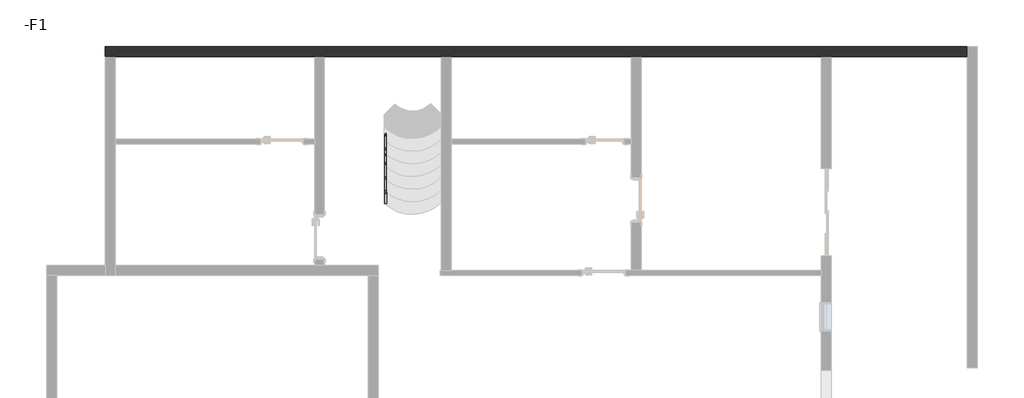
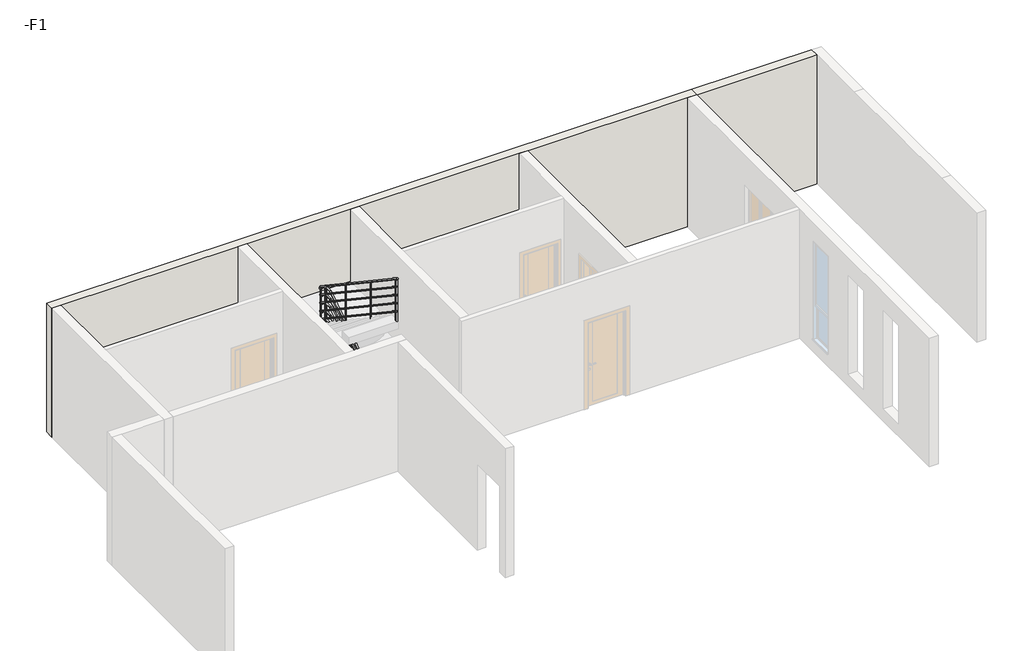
# One storey, part 2 of 3: 1 railing, 1 wall.
"""IFC4 building model written with IfcOpenShell, lengths in millimetres."""

from ifc_helpers import new_model, si_unit, point, frame, frame_2d, origin, place, context, project, spatial, circle_curve, ellipse_curve, trimmed, segment, composite_curve, outline, extrude, faceted_brep, element, save
from ifc_brep_helpers import plane_surface, cylinder_surface, advanced_brep

model = new_model("IFC4")

# Units and contexts
model_context = context("Model", 3, world=origin())
ifc_project = project(units=[si_unit("LENGTHUNIT", "METRE", prefix="MILLI")], contexts=[model_context])

# Site, building, storey
site = spatial("IfcSite", under=ifc_project)
building = spatial("IfcBuilding", under=site)
storey = spatial("IfcBuildingStorey", under=building, Name="-F1", Elevation=-3300.0)

# Railing
placement = place(None, origin())
element("IfcRailing", 1, ObjectType="900mm 圆管", at=placement, inside=storey, context=model_context, shape_type="SolidModel", body=[
    advanced_brep(
    [(-11180.5782681, -2651.0286905, -2250.3677801), (-11220.5782681, -2651.0286905, -2250.3677801), (-11180.5782681, -824.9629832, -1030.5263158), (-11220.5782681, -824.9629832, -1030.5263158), (-11180.5782681, -605.6286905, -1030.5263158), (-11220.5782681, -645.6286905, -1030.5263158), (-11339.1184451, -605.6286905, -1030.5263158), (-11305.857165, -645.6286905, -1030.5263158)],
    [
        (0, 1, ellipse_curve(frame((-11200.5782681, -2651.0286905, -2250.3677801), z_axis=(0.0, -1.0, 0.0), x_axis=(0.0, 0.0, -1.0)), 24.0519907, 20.0)),
        (1, 0, ellipse_curve(frame((-11200.5782681, -2651.0286905, -2250.3677801), z_axis=(0.0, -1.0, 0.0), x_axis=(0.0, 0.0, -1.0)), 24.0519907, 20.0)),
        (0, 2),
        (2, 3, ellipse_curve(frame((-11200.5782681, -824.9629832, -1030.5263158), z_axis=(0.0, -0.9569566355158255, -0.29023093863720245), x_axis=(0.0, 0.29023093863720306, -0.9569566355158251)), 20.8995886, 20.0)),
        (3, 1),
        (3, 2, ellipse_curve(frame((-11200.5782681, -824.9629832, -1030.5263158), z_axis=(0.0, -0.9569566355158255, -0.29023093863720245), x_axis=(0.0, 0.29023093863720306, -0.9569566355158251)), 20.8995886, 20.0)),
        (2, 4),
        (4, 5, ellipse_curve(frame((-11200.5782681, -625.6286905, -1030.5263158), z_axis=(0.7071067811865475, -0.7071067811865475, 0.0), x_axis=(-0.7071067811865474, -0.7071067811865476, 0.0)), 28.2842712, 20.0)),
        (5, 3),
        (5, 4, ellipse_curve(frame((-11200.5782681, -625.6286905, -1030.5263158), z_axis=(0.7071067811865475, -0.7071067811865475, 0.0), x_axis=(-0.7071067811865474, -0.7071067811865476, 0.0)), 28.2842712, 20.0)),
        (6, 7, ellipse_curve(frame((-11322.487805, -625.6286905, -1030.5263158), z_axis=(-0.7071067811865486, -0.5879819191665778, 0.3927814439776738), x_axis=(0.7071067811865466, -0.5879819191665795, 0.3927814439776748)), 28.2842712, 20.0)),
        (7, 6, ellipse_curve(frame((-11322.487805, -625.6286905, -1030.5263158), z_axis=(-0.7071067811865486, -0.5879819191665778, 0.3927814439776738), x_axis=(0.7071067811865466, -0.5879819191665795, 0.3927814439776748)), 28.2842712, 20.0)),
        (4, 6),
        (7, 5),
    ],
    [
        plane_surface(frame((-11200.5782681, -2651.0286905, -2226.3157895), z_axis=(0.0, -1.0, 0.0), x_axis=(0.0, 0.0, 1.0))),
        cylinder_surface(frame((-11200.5782681, -2639.9191536, -2242.9464296), z_axis=(0.0, -0.831532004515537, -0.5554768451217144), x_axis=(-1.0, 0.0, 0.0)), 20.0),
        cylinder_surface(frame((-11200.5782681, -831.0286905, -1030.5263158), z_axis=(0.0, -1.0, 0.0), x_axis=(-1.0, 0.0, 0.0)), 20.0),
        plane_surface(frame((-11311.3782681, -625.6286905, -1010.5263158), z_axis=(-0.7071067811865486, -0.5879819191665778, 0.3927814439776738), x_axis=(0.7071067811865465, -0.5879819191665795, 0.392781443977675))),
        cylinder_surface(frame((-11200.5782681, -625.6286905, -1030.5263158), z_axis=(1.0, 0.0, 0.0), x_axis=(0.0, -1.0, 0.0)), 20.0),
    ],
    [
        (0, [[1, 2]]),
        (1, [[-1, 3, 4, 5]]),
        (1, [[-2, -5, 6, -3]]),
        (2, [[-4, 7, 8, 9]]),
        (2, [[-6, -9, 10, -7]]),
        (3, [[11, 12]]),
        (4, [[-8, 13, -12, 14]]),
        (4, [[-10, -14, -11, -13]]),
    ],
),
    advanced_brep(
    [(-11331.3782681, -620.1075873, -1001.7928086), (-11291.3782681, -653.3688674, -979.5737348), (-11331.3782681, -3691.0286905, 1049.6322199), (-11291.3782681, -3691.0286905, 1049.6322199)],
    [
        (0, 1, ellipse_curve(frame((-11311.3782681, -636.7382274, -990.6832717), z_axis=(0.7071067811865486, 0.5879819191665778, -0.3927814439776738), x_axis=(-0.7071067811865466, 0.5879819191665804, -0.3927814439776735)), 28.2842712, 20.0)),
        (1, 0, ellipse_curve(frame((-11311.3782681, -636.7382274, -990.6832717), z_axis=(0.7071067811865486, 0.5879819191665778, -0.3927814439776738), x_axis=(-0.7071067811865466, 0.5879819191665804, -0.3927814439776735)), 28.2842712, 20.0)),
        (2, 3, ellipse_curve(frame((-11311.3782681, -3691.0286905, 1049.6322199), z_axis=(0.0, -1.0, 0.0), x_axis=(0.0, 0.0, -1.0)), 24.0519907, 20.0)),
        (3, 2, ellipse_curve(frame((-11311.3782681, -3691.0286905, 1049.6322199), z_axis=(0.0, -1.0, 0.0), x_axis=(0.0, 0.0, -1.0)), 24.0519907, 20.0)),
        (0, 2),
        (3, 1),
    ],
    [
        plane_surface(frame((-11311.3782681, -625.6286905, -974.0526316), z_axis=(0.7071067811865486, 0.5879819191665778, -0.3927814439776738), x_axis=(0.7071067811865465, -0.5879819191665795, 0.392781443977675))),
        plane_surface(frame((-11311.3782681, -3691.0286905, 1073.6842105), z_axis=(0.0, -1.0, 0.0), x_axis=(0.0, 0.0, -1.0))),
        cylinder_surface(frame((-11311.3782681, -636.7382274, -990.6832717), z_axis=(0.0, 0.8315320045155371, -0.5554768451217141), x_axis=(1.0, 0.0, 0.0)), 20.0),
    ],
    [
        (0, [[1, 2]]),
        (1, [[3, 4]]),
        (2, [[-1, 5, -4, 6]]),
        (2, [[-2, -6, -3, -5]]),
    ],
),
    advanced_brep(
    [(-11185.5782681, -2651.0286905, -2444.3547825), (-11215.5782681, -2651.0286905, -2444.3547825), (-11185.5782681, -826.47941, -1225.5263158), (-11215.5782681, -826.47941, -1225.5263158), (-11185.5782681, -640.6286905, -1225.5263158), (-11215.5782681, -640.6286905, -1225.5263158)],
    [
        (0, 1, ellipse_curve(frame((-11200.5782681, -2651.0286905, -2444.3547825), z_axis=(0.0, -1.0, 0.0), x_axis=(0.0, 0.0, -1.0)), 18.038993, 15.0)),
        (1, 0, ellipse_curve(frame((-11200.5782681, -2651.0286905, -2444.3547825), z_axis=(0.0, -1.0, 0.0), x_axis=(0.0, 0.0, -1.0)), 18.038993, 15.0)),
        (0, 2),
        (2, 3, ellipse_curve(frame((-11200.5782681, -826.47941, -1225.5263158), z_axis=(0.0, -0.9569566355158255, -0.29023093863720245), x_axis=(0.0, 0.29023093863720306, -0.9569566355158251)), 15.6746915, 15.0)),
        (3, 1),
        (3, 2, ellipse_curve(frame((-11200.5782681, -826.47941, -1225.5263158), z_axis=(0.0, -0.9569566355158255, -0.29023093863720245), x_axis=(0.0, 0.29023093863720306, -0.9569566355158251)), 15.6746915, 15.0)),
        (4, 5, circle_curve(frame((-11200.5782681, -640.6286905, -1225.5263158), z_axis=(0.0, 1.0, 0.0), x_axis=(-1.0, 0.0, 0.0)), 15.0)),
        (5, 4, circle_curve(frame((-11200.5782681, -640.6286905, -1225.5263158), z_axis=(0.0, 1.0, 0.0), x_axis=(-1.0, 0.0, 0.0)), 15.0)),
        (2, 4),
        (5, 3),
    ],
    [
        plane_surface(frame((-11200.5782681, -2651.0286905, -2426.3157895), z_axis=(0.0, -1.0, 0.0), x_axis=(0.0, 0.0, 1.0))),
        cylinder_surface(frame((-11200.5782681, -2642.6965378, -2438.7887695), z_axis=(0.0, -0.831532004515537, -0.5554768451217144), x_axis=(-1.0, 0.0, 0.0)), 15.0),
        plane_surface(frame((-11200.5782681, -640.6286905, -1210.5263158), z_axis=(0.0, 1.0, 0.0), x_axis=(0.0, 0.0, 1.0))),
        cylinder_surface(frame((-11200.5782681, -831.0286905, -1225.5263158), z_axis=(0.0, -1.0, 0.0), x_axis=(-1.0, 0.0, 0.0)), 15.0),
    ],
    [
        (0, [[1, 2]]),
        (1, [[-1, 3, 4, 5]]),
        (1, [[-2, -5, 6, -3]]),
        (2, [[7, 8]]),
        (3, [[-4, 9, -8, 10]]),
        (3, [[-6, -10, -7, -9]]),
    ],
),
    advanced_brep(
    [(-11185.5782681, -610.6286905, -1225.5263158), (-11185.5782681, -640.6286905, -1225.5263158), (-11296.3782681, -610.6286905, -1225.5263158), (-11296.3782681, -640.6286905, -1225.5263158)],
    [
        (0, 1, circle_curve(frame((-11185.5782681, -625.6286905, -1225.5263158), z_axis=(1.0, 0.0, 0.0), x_axis=(0.0, -1.0, 0.0)), 15.0)),
        (1, 0, circle_curve(frame((-11185.5782681, -625.6286905, -1225.5263158), z_axis=(1.0, 0.0, 0.0), x_axis=(0.0, -1.0, 0.0)), 15.0)),
        (2, 3, circle_curve(frame((-11296.3782681, -625.6286905, -1225.5263158), z_axis=(-1.0, 0.0, 0.0), x_axis=(0.0, -1.0, 0.0)), 15.0)),
        (3, 2, circle_curve(frame((-11296.3782681, -625.6286905, -1225.5263158), z_axis=(-1.0, 0.0, 0.0), x_axis=(0.0, -1.0, 0.0)), 15.0)),
        (0, 2),
        (3, 1),
    ],
    [
        plane_surface(frame((-11185.5782681, -625.6286905, -1210.5263158), z_axis=(1.0, 0.0, 0.0), x_axis=(0.0, -1.0, 0.0))),
        plane_surface(frame((-11296.3782681, -625.6286905, -1210.5263158), z_axis=(-1.0, 0.0, 0.0), x_axis=(0.0, -1.0, 0.0))),
        cylinder_surface(frame((-11185.5782681, -625.6286905, -1225.5263158), z_axis=(1.0, 0.0, 0.0), x_axis=(0.0, -1.0, 0.0)), 15.0),
    ],
    [
        (0, [[1, 2]]),
        (1, [[3, 4]]),
        (2, [[-1, 5, -4, 6]]),
        (2, [[-2, -6, -3, -5]]),
    ],
),
    advanced_brep(
    [(-11326.3782681, -610.6286905, -1202.1118675), (-11296.3782681, -610.6286905, -1202.1118675), (-11326.3782681, -3691.0286905, 855.6452175), (-11296.3782681, -3691.0286905, 855.6452175)],
    [
        (0, 1, ellipse_curve(frame((-11311.3782681, -610.6286905, -1202.1118675), z_axis=(0.0, 1.0, 0.0), x_axis=(0.0, 0.0, -1.0)), 18.038993, 15.0)),
        (1, 0, ellipse_curve(frame((-11311.3782681, -610.6286905, -1202.1118675), z_axis=(0.0, 1.0, 0.0), x_axis=(0.0, 0.0, -1.0)), 18.038993, 15.0)),
        (2, 3, ellipse_curve(frame((-11311.3782681, -3691.0286905, 855.6452175), z_axis=(0.0, -1.0, 0.0), x_axis=(0.0, 0.0, -1.0)), 18.038993, 15.0)),
        (3, 2, ellipse_curve(frame((-11311.3782681, -3691.0286905, 855.6452175), z_axis=(0.0, -1.0, 0.0), x_axis=(0.0, 0.0, -1.0)), 18.038993, 15.0)),
        (0, 2),
        (3, 1),
    ],
    [
        plane_surface(frame((-11311.3782681, -610.6286905, -1184.0728745), z_axis=(0.0, 1.0, 0.0), x_axis=(0.0, 0.0, -1.0))),
        plane_surface(frame((-11311.3782681, -3691.0286905, 873.6842105), z_axis=(0.0, -1.0, 0.0), x_axis=(0.0, 0.0, -1.0))),
        cylinder_surface(frame((-11311.3782681, -618.9608431, -1196.5458546), z_axis=(0.0, 0.8315320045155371, -0.5554768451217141), x_axis=(1.0, 0.0, 0.0)), 15.0),
    ],
    [
        (0, [[1, 2]]),
        (1, [[3, 4]]),
        (2, [[-1, 5, -4, 6]]),
        (2, [[-2, -6, -3, -5]]),
    ],
),
    advanced_brep(
    [(-11185.5782681, -2651.0286905, -2644.3547825), (-11215.5782681, -2651.0286905, -2644.3547825), (-11185.5782681, -826.47941, -1425.5263158), (-11215.5782681, -826.47941, -1425.5263158), (-11185.5782681, -640.6286905, -1425.5263158), (-11215.5782681, -640.6286905, -1425.5263158)],
    [
        (0, 1, ellipse_curve(frame((-11200.5782681, -2651.0286905, -2644.3547825), z_axis=(0.0, -1.0, 0.0), x_axis=(0.0, 0.0, -1.0)), 18.038993, 15.0)),
        (1, 0, ellipse_curve(frame((-11200.5782681, -2651.0286905, -2644.3547825), z_axis=(0.0, -1.0, 0.0), x_axis=(0.0, 0.0, -1.0)), 18.038993, 15.0)),
        (0, 2),
        (2, 3, ellipse_curve(frame((-11200.5782681, -826.47941, -1425.5263158), z_axis=(0.0, -0.9569566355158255, -0.29023093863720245), x_axis=(0.0, 0.29023093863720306, -0.9569566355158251)), 15.6746915, 15.0)),
        (3, 1),
        (3, 2, ellipse_curve(frame((-11200.5782681, -826.47941, -1425.5263158), z_axis=(0.0, -0.9569566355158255, -0.29023093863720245), x_axis=(0.0, 0.29023093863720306, -0.9569566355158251)), 15.6746915, 15.0)),
        (4, 5, circle_curve(frame((-11200.5782681, -640.6286905, -1425.5263158), z_axis=(0.0, 1.0, 0.0), x_axis=(-1.0, 0.0, 0.0)), 15.0)),
        (5, 4, circle_curve(frame((-11200.5782681, -640.6286905, -1425.5263158), z_axis=(0.0, 1.0, 0.0), x_axis=(-1.0, 0.0, 0.0)), 15.0)),
        (2, 4),
        (5, 3),
    ],
    [
        plane_surface(frame((-11200.5782681, -2651.0286905, -2626.3157895), z_axis=(0.0, -1.0, 0.0), x_axis=(0.0, 0.0, 1.0))),
        cylinder_surface(frame((-11200.5782681, -2642.6965378, -2638.7887695), z_axis=(0.0, -0.831532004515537, -0.5554768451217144), x_axis=(-1.0, 0.0, 0.0)), 15.0),
        plane_surface(frame((-11200.5782681, -640.6286905, -1410.5263158), z_axis=(0.0, 1.0, 0.0), x_axis=(0.0, 0.0, 1.0))),
        cylinder_surface(frame((-11200.5782681, -831.0286905, -1425.5263158), z_axis=(0.0, -1.0, 0.0), x_axis=(-1.0, 0.0, 0.0)), 15.0),
    ],
    [
        (0, [[1, 2]]),
        (1, [[-1, 3, 4, 5]]),
        (1, [[-2, -5, 6, -3]]),
        (2, [[7, 8]]),
        (3, [[-4, 9, -8, 10]]),
        (3, [[-6, -10, -7, -9]]),
    ],
),
    advanced_brep(
    [(-11185.5782681, -610.6286905, -1425.5263158), (-11185.5782681, -640.6286905, -1425.5263158), (-11296.3782681, -610.6286905, -1425.5263158), (-11296.3782681, -640.6286905, -1425.5263158)],
    [
        (0, 1, circle_curve(frame((-11185.5782681, -625.6286905, -1425.5263158), z_axis=(1.0, 0.0, 0.0), x_axis=(0.0, -1.0, 0.0)), 15.0)),
        (1, 0, circle_curve(frame((-11185.5782681, -625.6286905, -1425.5263158), z_axis=(1.0, 0.0, 0.0), x_axis=(0.0, -1.0, 0.0)), 15.0)),
        (2, 3, circle_curve(frame((-11296.3782681, -625.6286905, -1425.5263158), z_axis=(-1.0, 0.0, 0.0), x_axis=(0.0, -1.0, 0.0)), 15.0)),
        (3, 2, circle_curve(frame((-11296.3782681, -625.6286905, -1425.5263158), z_axis=(-1.0, 0.0, 0.0), x_axis=(0.0, -1.0, 0.0)), 15.0)),
        (0, 2),
        (3, 1),
    ],
    [
        plane_surface(frame((-11185.5782681, -625.6286905, -1410.5263158), z_axis=(1.0, 0.0, 0.0), x_axis=(0.0, -1.0, 0.0))),
        plane_surface(frame((-11296.3782681, -625.6286905, -1410.5263158), z_axis=(-1.0, 0.0, 0.0), x_axis=(0.0, -1.0, 0.0))),
        cylinder_surface(frame((-11185.5782681, -625.6286905, -1425.5263158), z_axis=(1.0, 0.0, 0.0), x_axis=(0.0, -1.0, 0.0)), 15.0),
    ],
    [
        (0, [[1, 2]]),
        (1, [[3, 4]]),
        (2, [[-1, 5, -4, 6]]),
        (2, [[-2, -6, -3, -5]]),
    ],
),
    advanced_brep(
    [(-11326.3782681, -610.6286905, -1402.1118675), (-11296.3782681, -610.6286905, -1402.1118675), (-11326.3782681, -3691.0286905, 655.6452175), (-11296.3782681, -3691.0286905, 655.6452175)],
    [
        (0, 1, ellipse_curve(frame((-11311.3782681, -610.6286905, -1402.1118675), z_axis=(0.0, 1.0, 0.0), x_axis=(0.0, 0.0, -1.0)), 18.038993, 15.0)),
        (1, 0, ellipse_curve(frame((-11311.3782681, -610.6286905, -1402.1118675), z_axis=(0.0, 1.0, 0.0), x_axis=(0.0, 0.0, -1.0)), 18.038993, 15.0)),
        (2, 3, ellipse_curve(frame((-11311.3782681, -3691.0286905, 655.6452175), z_axis=(0.0, -1.0, 0.0), x_axis=(0.0, 0.0, -1.0)), 18.038993, 15.0)),
        (3, 2, ellipse_curve(frame((-11311.3782681, -3691.0286905, 655.6452175), z_axis=(0.0, -1.0, 0.0), x_axis=(0.0, 0.0, -1.0)), 18.038993, 15.0)),
        (0, 2),
        (3, 1),
    ],
    [
        plane_surface(frame((-11311.3782681, -610.6286905, -1384.0728745), z_axis=(0.0, 1.0, 0.0), x_axis=(0.0, 0.0, -1.0))),
        plane_surface(frame((-11311.3782681, -3691.0286905, 673.6842105), z_axis=(0.0, -1.0, 0.0), x_axis=(0.0, 0.0, -1.0))),
        cylinder_surface(frame((-11311.3782681, -618.9608431, -1396.5458546), z_axis=(0.0, 0.8315320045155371, -0.5554768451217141), x_axis=(1.0, 0.0, 0.0)), 15.0),
    ],
    [
        (0, [[1, 2]]),
        (1, [[3, 4]]),
        (2, [[-1, 5, -4, 6]]),
        (2, [[-2, -6, -3, -5]]),
    ],
),
    advanced_brep(
    [(-11185.5782681, -2651.0286905, -2844.3547825), (-11215.5782681, -2651.0286905, -2844.3547825), (-11185.5782681, -826.47941, -1625.5263158), (-11215.5782681, -826.47941, -1625.5263158), (-11185.5782681, -640.6286905, -1625.5263158), (-11215.5782681, -640.6286905, -1625.5263158)],
    [
        (0, 1, ellipse_curve(frame((-11200.5782681, -2651.0286905, -2844.3547825), z_axis=(0.0, -1.0, 0.0), x_axis=(0.0, 0.0, -1.0)), 18.038993, 15.0)),
        (1, 0, ellipse_curve(frame((-11200.5782681, -2651.0286905, -2844.3547825), z_axis=(0.0, -1.0, 0.0), x_axis=(0.0, 0.0, -1.0)), 18.038993, 15.0)),
        (0, 2),
        (2, 3, ellipse_curve(frame((-11200.5782681, -826.47941, -1625.5263158), z_axis=(0.0, -0.9569566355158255, -0.29023093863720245), x_axis=(0.0, 0.29023093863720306, -0.9569566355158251)), 15.6746915, 15.0)),
        (3, 1),
        (3, 2, ellipse_curve(frame((-11200.5782681, -826.47941, -1625.5263158), z_axis=(0.0, -0.9569566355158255, -0.29023093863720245), x_axis=(0.0, 0.29023093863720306, -0.9569566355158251)), 15.6746915, 15.0)),
        (4, 5, circle_curve(frame((-11200.5782681, -640.6286905, -1625.5263158), z_axis=(0.0, 1.0, 0.0), x_axis=(-1.0, 0.0, 0.0)), 15.0)),
        (5, 4, circle_curve(frame((-11200.5782681, -640.6286905, -1625.5263158), z_axis=(0.0, 1.0, 0.0), x_axis=(-1.0, 0.0, 0.0)), 15.0)),
        (2, 4),
        (5, 3),
    ],
    [
        plane_surface(frame((-11200.5782681, -2651.0286905, -2826.3157895), z_axis=(0.0, -1.0, 0.0), x_axis=(0.0, 0.0, 1.0))),
        cylinder_surface(frame((-11200.5782681, -2642.6965378, -2838.7887695), z_axis=(0.0, -0.831532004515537, -0.5554768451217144), x_axis=(-1.0, 0.0, 0.0)), 15.0),
        plane_surface(frame((-11200.5782681, -640.6286905, -1610.5263158), z_axis=(0.0, 1.0, 0.0), x_axis=(0.0, 0.0, 1.0))),
        cylinder_surface(frame((-11200.5782681, -831.0286905, -1625.5263158), z_axis=(0.0, -1.0, 0.0), x_axis=(-1.0, 0.0, 0.0)), 15.0),
    ],
    [
        (0, [[1, 2]]),
        (1, [[-1, 3, 4, 5]]),
        (1, [[-2, -5, 6, -3]]),
        (2, [[7, 8]]),
        (3, [[-4, 9, -8, 10]]),
        (3, [[-6, -10, -7, -9]]),
    ],
),
    advanced_brep(
    [(-11185.5782681, -610.6286905, -1625.5263158), (-11185.5782681, -640.6286905, -1625.5263158), (-11296.3782681, -610.6286905, -1625.5263158), (-11296.3782681, -640.6286905, -1625.5263158)],
    [
        (0, 1, circle_curve(frame((-11185.5782681, -625.6286905, -1625.5263158), z_axis=(1.0, 0.0, 0.0), x_axis=(0.0, -1.0, 0.0)), 15.0)),
        (1, 0, circle_curve(frame((-11185.5782681, -625.6286905, -1625.5263158), z_axis=(1.0, 0.0, 0.0), x_axis=(0.0, -1.0, 0.0)), 15.0)),
        (2, 3, circle_curve(frame((-11296.3782681, -625.6286905, -1625.5263158), z_axis=(-1.0, 0.0, 0.0), x_axis=(0.0, -1.0, 0.0)), 15.0)),
        (3, 2, circle_curve(frame((-11296.3782681, -625.6286905, -1625.5263158), z_axis=(-1.0, 0.0, 0.0), x_axis=(0.0, -1.0, 0.0)), 15.0)),
        (0, 2),
        (3, 1),
    ],
    [
        plane_surface(frame((-11185.5782681, -625.6286905, -1610.5263158), z_axis=(1.0, 0.0, 0.0), x_axis=(0.0, -1.0, 0.0))),
        plane_surface(frame((-11296.3782681, -625.6286905, -1610.5263158), z_axis=(-1.0, 0.0, 0.0), x_axis=(0.0, -1.0, 0.0))),
        cylinder_surface(frame((-11185.5782681, -625.6286905, -1625.5263158), z_axis=(1.0, 0.0, 0.0), x_axis=(0.0, -1.0, 0.0)), 15.0),
    ],
    [
        (0, [[1, 2]]),
        (1, [[3, 4]]),
        (2, [[-1, 5, -4, 6]]),
        (2, [[-2, -6, -3, -5]]),
    ],
),
    advanced_brep(
    [(-11326.3782681, -610.6286905, -1602.1118675), (-11296.3782681, -610.6286905, -1602.1118675), (-11326.3782681, -3691.0286905, 455.6452175), (-11296.3782681, -3691.0286905, 455.6452175)],
    [
        (0, 1, ellipse_curve(frame((-11311.3782681, -610.6286905, -1602.1118675), z_axis=(0.0, 1.0, 0.0), x_axis=(0.0, 0.0, -1.0)), 18.038993, 15.0)),
        (1, 0, ellipse_curve(frame((-11311.3782681, -610.6286905, -1602.1118675), z_axis=(0.0, 1.0, 0.0), x_axis=(0.0, 0.0, -1.0)), 18.038993, 15.0)),
        (2, 3, ellipse_curve(frame((-11311.3782681, -3691.0286905, 455.6452175), z_axis=(0.0, -1.0, 0.0), x_axis=(0.0, 0.0, -1.0)), 18.038993, 15.0)),
        (3, 2, ellipse_curve(frame((-11311.3782681, -3691.0286905, 455.6452175), z_axis=(0.0, -1.0, 0.0), x_axis=(0.0, 0.0, -1.0)), 18.038993, 15.0)),
        (0, 2),
        (3, 1),
    ],
    [
        plane_surface(frame((-11311.3782681, -610.6286905, -1584.0728745), z_axis=(0.0, 1.0, 0.0), x_axis=(0.0, 0.0, -1.0))),
        plane_surface(frame((-11311.3782681, -3691.0286905, 473.6842105), z_axis=(0.0, -1.0, 0.0), x_axis=(0.0, 0.0, -1.0))),
        cylinder_surface(frame((-11311.3782681, -618.9608431, -1596.5458546), z_axis=(0.0, 0.8315320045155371, -0.5554768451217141), x_axis=(1.0, 0.0, 0.0)), 15.0),
    ],
    [
        (0, [[1, 2]]),
        (1, [[3, 4]]),
        (2, [[-1, 5, -4, 6]]),
        (2, [[-2, -6, -3, -5]]),
    ],
),
    advanced_brep(
    [(-11185.5782681, -2651.0286905, -3044.3547825), (-11215.5782681, -2651.0286905, -3044.3547825), (-11185.5782681, -826.47941, -1825.5263158), (-11215.5782681, -826.47941, -1825.5263158), (-11185.5782681, -640.6286905, -1825.5263158), (-11215.5782681, -640.6286905, -1825.5263158)],
    [
        (0, 1, ellipse_curve(frame((-11200.5782681, -2651.0286905, -3044.3547825), z_axis=(0.0, -1.0, 0.0), x_axis=(0.0, 0.0, -1.0)), 18.038993, 15.0)),
        (1, 0, ellipse_curve(frame((-11200.5782681, -2651.0286905, -3044.3547825), z_axis=(0.0, -1.0, 0.0), x_axis=(0.0, 0.0, -1.0)), 18.038993, 15.0)),
        (0, 2),
        (2, 3, ellipse_curve(frame((-11200.5782681, -826.47941, -1825.5263158), z_axis=(0.0, -0.9569566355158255, -0.29023093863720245), x_axis=(0.0, 0.29023093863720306, -0.9569566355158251)), 15.6746915, 15.0)),
        (3, 1),
        (3, 2, ellipse_curve(frame((-11200.5782681, -826.47941, -1825.5263158), z_axis=(0.0, -0.9569566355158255, -0.29023093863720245), x_axis=(0.0, 0.29023093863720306, -0.9569566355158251)), 15.6746915, 15.0)),
        (4, 5, circle_curve(frame((-11200.5782681, -640.6286905, -1825.5263158), z_axis=(0.0, 1.0, 0.0), x_axis=(-1.0, 0.0, 0.0)), 15.0)),
        (5, 4, circle_curve(frame((-11200.5782681, -640.6286905, -1825.5263158), z_axis=(0.0, 1.0, 0.0), x_axis=(-1.0, 0.0, 0.0)), 15.0)),
        (2, 4),
        (5, 3),
    ],
    [
        plane_surface(frame((-11200.5782681, -2651.0286905, -3026.3157895), z_axis=(0.0, -1.0, 0.0), x_axis=(0.0, 0.0, 1.0))),
        cylinder_surface(frame((-11200.5782681, -2642.6965378, -3038.7887695), z_axis=(0.0, -0.831532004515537, -0.5554768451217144), x_axis=(-1.0, 0.0, 0.0)), 15.0),
        plane_surface(frame((-11200.5782681, -640.6286905, -1810.5263158), z_axis=(0.0, 1.0, 0.0), x_axis=(0.0, 0.0, 1.0))),
        cylinder_surface(frame((-11200.5782681, -831.0286905, -1825.5263158), z_axis=(0.0, -1.0, 0.0), x_axis=(-1.0, 0.0, 0.0)), 15.0),
    ],
    [
        (0, [[1, 2]]),
        (1, [[-1, 3, 4, 5]]),
        (1, [[-2, -5, 6, -3]]),
        (2, [[7, 8]]),
        (3, [[-4, 9, -8, 10]]),
        (3, [[-6, -10, -7, -9]]),
    ],
),
    advanced_brep(
    [(-11185.5782681, -610.6286905, -1825.5263158), (-11185.5782681, -640.6286905, -1825.5263158), (-11296.3782681, -610.6286905, -1825.5263158), (-11296.3782681, -640.6286905, -1825.5263158)],
    [
        (0, 1, circle_curve(frame((-11185.5782681, -625.6286905, -1825.5263158), z_axis=(1.0, 0.0, 0.0), x_axis=(0.0, -1.0, 0.0)), 15.0)),
        (1, 0, circle_curve(frame((-11185.5782681, -625.6286905, -1825.5263158), z_axis=(1.0, 0.0, 0.0), x_axis=(0.0, -1.0, 0.0)), 15.0)),
        (2, 3, circle_curve(frame((-11296.3782681, -625.6286905, -1825.5263158), z_axis=(-1.0, 0.0, 0.0), x_axis=(0.0, -1.0, 0.0)), 15.0)),
        (3, 2, circle_curve(frame((-11296.3782681, -625.6286905, -1825.5263158), z_axis=(-1.0, 0.0, 0.0), x_axis=(0.0, -1.0, 0.0)), 15.0)),
        (0, 2),
        (3, 1),
    ],
    [
        plane_surface(frame((-11185.5782681, -625.6286905, -1810.5263158), z_axis=(1.0, 0.0, 0.0), x_axis=(0.0, -1.0, 0.0))),
        plane_surface(frame((-11296.3782681, -625.6286905, -1810.5263158), z_axis=(-1.0, 0.0, 0.0), x_axis=(0.0, -1.0, 0.0))),
        cylinder_surface(frame((-11185.5782681, -625.6286905, -1825.5263158), z_axis=(1.0, 0.0, 0.0), x_axis=(0.0, -1.0, 0.0)), 15.0),
    ],
    [
        (0, [[1, 2]]),
        (1, [[3, 4]]),
        (2, [[-1, 5, -4, 6]]),
        (2, [[-2, -6, -3, -5]]),
    ],
),
    advanced_brep(
    [(-11326.3782681, -610.6286905, -1802.1118675), (-11296.3782681, -610.6286905, -1802.1118675), (-11326.3782681, -3691.0286905, 255.6452175), (-11296.3782681, -3691.0286905, 255.6452175)],
    [
        (0, 1, ellipse_curve(frame((-11311.3782681, -610.6286905, -1802.1118675), z_axis=(0.0, 1.0, 0.0), x_axis=(0.0, 0.0, -1.0)), 18.038993, 15.0)),
        (1, 0, ellipse_curve(frame((-11311.3782681, -610.6286905, -1802.1118675), z_axis=(0.0, 1.0, 0.0), x_axis=(0.0, 0.0, -1.0)), 18.038993, 15.0)),
        (2, 3, ellipse_curve(frame((-11311.3782681, -3691.0286905, 255.6452175), z_axis=(0.0, -1.0, 0.0), x_axis=(0.0, 0.0, -1.0)), 18.038993, 15.0)),
        (3, 2, ellipse_curve(frame((-11311.3782681, -3691.0286905, 255.6452175), z_axis=(0.0, -1.0, 0.0), x_axis=(0.0, 0.0, -1.0)), 18.038993, 15.0)),
        (0, 2),
        (3, 1),
    ],
    [
        plane_surface(frame((-11311.3782681, -610.6286905, -1784.0728745), z_axis=(0.0, 1.0, 0.0), x_axis=(0.0, 0.0, -1.0))),
        plane_surface(frame((-11311.3782681, -3691.0286905, 273.6842105), z_axis=(0.0, -1.0, 0.0), x_axis=(0.0, 0.0, -1.0))),
        cylinder_surface(frame((-11311.3782681, -618.9608431, -1796.5458546), z_axis=(0.0, 0.8315320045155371, -0.5554768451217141), x_axis=(1.0, 0.0, 0.0)), 15.0),
    ],
    [
        (0, [[1, 2]]),
        (1, [[3, 4]]),
        (2, [[-1, 5, -4, 6]]),
        (2, [[-2, -6, -3, -5]]),
    ],
),
    advanced_brep(
    [(-11298.8782681, -3625.6286905, 981.8919701), (-11323.8782681, -3625.6286905, 981.8919701), (-11323.8782681, -3625.6286905, 0.0), (-11298.8782681, -3625.6286905, 0.0)],
    [
        (0, 1, ellipse_curve(frame((-11311.3782681, -3625.6286905, 981.8919701), z_axis=(0.0, -0.5554768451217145, -0.831532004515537), x_axis=(0.0, -0.8315320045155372, 0.5554768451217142)), 15.0324942, 12.5)),
        (1, 2),
        (2, 3, circle_curve(frame((-11311.3782681, -3625.6286905, 0.0), z_axis=(0.0, 0.0, 1.0), x_axis=(-1.0, 0.0, 0.0)), 12.5)),
        (3, 0),
        (3, 2, circle_curve(frame((-11311.3782681, -3625.6286905, 0.0), z_axis=(0.0, 0.0, 1.0), x_axis=(-1.0, 0.0, 0.0)), 12.5)),
        (1, 0, ellipse_curve(frame((-11311.3782681, -3625.6286905, 981.8919701), z_axis=(0.0, -0.5554768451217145, -0.831532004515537), x_axis=(0.0, -0.8315320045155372, 0.5554768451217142)), 15.0324942, 12.5)),
    ],
    [
        cylinder_surface(frame((-11311.3782681, -3625.6286905, -100.0), z_axis=(0.0, 0.0, 1.0), x_axis=(-1.0, 0.0, 0.0)), 12.5),
        plane_surface(frame((-11336.3782681, -3650.6286905, 998.592375), z_axis=(0.0, 0.5554768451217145, 0.831532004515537), x_axis=(1.0, 0.0, 0.0))),
        plane_surface(frame((-11336.3782681, -3600.6286905, 0.0), z_axis=(0.0, 0.0, -1.0), x_axis=(1.0, 0.0, 0.0))),
    ],
    [
        (0, [[1, 2, 3, 4]]),
        (0, [[5, -2, 6, -4]]),
        (1, [[-6, -1]]),
        (2, [[-5, -3]]),
    ],
),
    advanced_brep(
    [(-11298.8782681, -2625.6286905, 313.8757758), (-11323.8782681, -2625.6286905, 313.8757758), (-11323.8782681, -2625.6286905, -694.7368421), (-11298.8782681, -2625.6286905, -694.7368421)],
    [
        (0, 1, ellipse_curve(frame((-11311.3782681, -2625.6286905, 313.8757758), z_axis=(0.0, -0.5554768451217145, -0.831532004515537), x_axis=(0.0, -0.8315320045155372, 0.5554768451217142)), 15.0324942, 12.5)),
        (1, 2),
        (2, 3, circle_curve(frame((-11311.3782681, -2625.6286905, -694.7368421), z_axis=(0.0, 0.0, 1.0), x_axis=(-1.0, 0.0, 0.0)), 12.5)),
        (3, 0),
        (3, 2, circle_curve(frame((-11311.3782681, -2625.6286905, -694.7368421), z_axis=(0.0, 0.0, 1.0), x_axis=(-1.0, 0.0, 0.0)), 12.5)),
        (1, 0, ellipse_curve(frame((-11311.3782681, -2625.6286905, 313.8757758), z_axis=(0.0, -0.5554768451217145, -0.831532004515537), x_axis=(0.0, -0.8315320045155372, 0.5554768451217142)), 15.0324942, 12.5)),
    ],
    [
        cylinder_surface(frame((-11311.3782681, -2625.6286905, -794.7368421), z_axis=(0.0, 0.0, 1.0), x_axis=(-1.0, 0.0, 0.0)), 12.5),
        plane_surface(frame((-11336.3782681, -2650.6286905, 330.5761806), z_axis=(0.0, 0.5554768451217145, 0.831532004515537), x_axis=(1.0, 0.0, 0.0))),
        plane_surface(frame((-11336.3782681, -2600.6286905, -694.7368421), z_axis=(0.0, 0.0, -1.0), x_axis=(1.0, 0.0, 0.0))),
    ],
    [
        (0, [[1, 2, 3, 4]]),
        (0, [[5, -2, 6, -4]]),
        (1, [[-6, -1]]),
        (2, [[-5, -3]]),
    ],
),
    advanced_brep(
    [(-11298.8782681, -1625.6286905, -354.1404186), (-11323.8782681, -1625.6286905, -354.1404186), (-11323.8782681, -1625.6286905, -1215.7894737), (-11298.8782681, -1625.6286905, -1215.7894737)],
    [
        (0, 1, ellipse_curve(frame((-11311.3782681, -1625.6286905, -354.1404186), z_axis=(0.0, -0.5554768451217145, -0.831532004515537), x_axis=(0.0, -0.8315320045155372, 0.5554768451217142)), 15.0324942, 12.5)),
        (1, 2),
        (2, 3, circle_curve(frame((-11311.3782681, -1625.6286905, -1215.7894737), z_axis=(0.0, 0.0, 1.0), x_axis=(-1.0, 0.0, 0.0)), 12.5)),
        (3, 0),
        (3, 2, circle_curve(frame((-11311.3782681, -1625.6286905, -1215.7894737), z_axis=(0.0, 0.0, 1.0), x_axis=(-1.0, 0.0, 0.0)), 12.5)),
        (1, 0, ellipse_curve(frame((-11311.3782681, -1625.6286905, -354.1404186), z_axis=(0.0, -0.5554768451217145, -0.831532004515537), x_axis=(0.0, -0.8315320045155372, 0.5554768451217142)), 15.0324942, 12.5)),
    ],
    [
        cylinder_surface(frame((-11311.3782681, -1625.6286905, -1315.7894737), z_axis=(0.0, 0.0, 1.0), x_axis=(-1.0, 0.0, 0.0)), 12.5),
        plane_surface(frame((-11336.3782681, -1650.6286905, -337.4400137), z_axis=(0.0, 0.5554768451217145, 0.831532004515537), x_axis=(1.0, 0.0, 0.0))),
        plane_surface(frame((-11336.3782681, -1600.6286905, -1215.7894737), z_axis=(0.0, 0.0, -1.0), x_axis=(1.0, 0.0, 0.0))),
    ],
    [
        (0, [[1, 2, 3, 4]]),
        (0, [[5, -2, 6, -4]]),
        (1, [[-6, -1]]),
        (2, [[-5, -3]]),
    ],
),
    extrude(outline(composite_curve([segment(trimmed(circle_curve(frame_2d((-11200.5782681, -651.0286905)), 12.5), [point((-11188.0782681, -651.0286905))], [point((-11213.0782681, -651.0286905))], False, "CARTESIAN"), True, "CONTINUOUS"), segment(trimmed(circle_curve(frame_2d((-11200.5782681, -651.0286905)), 12.5), [point((-11213.0782681, -651.0286905))], [point((-11188.0782681, -651.0286905))], False, "CARTESIAN"), True, "CONTINUOUS")], self_intersect=False)), frame((0.0, 0.0, -1910.5263158), z_axis=(0.0, 0.0, 1.0), x_axis=(1.0, 0.0, 0.0)), (0.0, 0.0, 1.0), 860.0),
    advanced_brep(
    [(-11213.0782681, -1651.0286905, -1606.4035764), (-11188.0782681, -1651.0286905, -1606.4035764), (-11188.0782681, -1651.0286905, -2605.2631579), (-11213.0782681, -1651.0286905, -2605.2631579)],
    [
        (0, 1, ellipse_curve(frame((-11200.5782681, -1651.0286905, -1606.4035764), z_axis=(0.0, 0.555476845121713, -0.831532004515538), x_axis=(0.0, 0.8315320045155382, 0.5554768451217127)), 15.0324942, 12.5)),
        (1, 2),
        (2, 3, circle_curve(frame((-11200.5782681, -1651.0286905, -2605.2631579), z_axis=(0.0, 0.0, 1.0), x_axis=(1.0, 0.0, 0.0)), 12.5)),
        (3, 0),
        (3, 2, circle_curve(frame((-11200.5782681, -1651.0286905, -2605.2631579), z_axis=(0.0, 0.0, 1.0), x_axis=(1.0, 0.0, 0.0)), 12.5)),
        (1, 0, ellipse_curve(frame((-11200.5782681, -1651.0286905, -1606.4035764), z_axis=(0.0, 0.555476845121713, -0.831532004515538), x_axis=(0.0, 0.8315320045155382, 0.5554768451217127)), 15.0324942, 12.5)),
    ],
    [
        cylinder_surface(frame((-11200.5782681, -1651.0286905, -2705.2631579), z_axis=(0.0, 0.0, 1.0), x_axis=(1.0, 0.0, 0.0)), 12.5),
        plane_surface(frame((-11175.5782681, -1626.0286905, -1589.7031716), z_axis=(0.0, -0.555476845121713, 0.831532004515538), x_axis=(-1.0, 0.0, 0.0))),
        plane_surface(frame((-11175.5782681, -1676.0286905, -2605.2631579), z_axis=(0.0, 0.0, -1.0), x_axis=(-1.0, 0.0, 0.0))),
    ],
    [
        (0, [[1, 2, 3, 4]]),
        (0, [[5, -2, 6, -4]]),
        (1, [[-6, -1]]),
        (2, [[-5, -3]]),
    ],
),
    extrude(outline(composite_curve([segment(trimmed(circle_curve(frame_2d((-11311.3782681, -625.6286905)), 12.5), [point((-11311.3782681, -613.1286905))], [point((-11311.3782681, -638.1286905))], False, "CARTESIAN"), True, "CONTINUOUS"), segment(trimmed(circle_curve(frame_2d((-11311.3782681, -625.6286905)), 12.5), [point((-11311.3782681, -638.1286905))], [point((-11311.3782681, -613.1286905))], False, "CARTESIAN"), True, "CONTINUOUS")], self_intersect=False)), frame((0.0, 0.0, -1910.5263158), z_axis=(0.0, 0.0, 1.0), x_axis=(1.0, 0.0, 0.0)), (0.0, 0.0, 1.0), 860.0),
    extrude(outline(composite_curve([segment(trimmed(circle_curve(frame_2d((-11200.5782681, -625.6286905)), 12.5), [point((-11188.0782681, -625.6286905))], [point((-11213.0782681, -625.6286905))], False, "CARTESIAN"), True, "CONTINUOUS"), segment(trimmed(circle_curve(frame_2d((-11200.5782681, -625.6286905)), 12.5), [point((-11213.0782681, -625.6286905))], [point((-11188.0782681, -625.6286905))], False, "CARTESIAN"), True, "CONTINUOUS")], self_intersect=False)), frame((0.0, 0.0, -1910.5263158), z_axis=(0.0, 0.0, 1.0), x_axis=(1.0, 0.0, 0.0)), (0.0, 0.0, 1.0), 860.0),
    advanced_brep(
    [(-11298.8782681, -3678.5286905, 1017.2300268), (-11323.8782681, -3678.5286905, 1017.2300268), (-11323.8782681, -3678.5286905, 0.0), (-11298.8782681, -3678.5286905, 0.0)],
    [
        (0, 1, ellipse_curve(frame((-11311.3782681, -3678.5286905, 1017.2300268), z_axis=(0.0, -0.555476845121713, -0.831532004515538), x_axis=(0.0, -0.8315320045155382, 0.5554768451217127)), 15.0324942, 12.5)),
        (1, 2),
        (2, 3, circle_curve(frame((-11311.3782681, -3678.5286905, 0.0), z_axis=(0.0, 0.0, 1.0), x_axis=(-1.0, 0.0, 0.0)), 12.5)),
        (3, 0),
        (3, 2, circle_curve(frame((-11311.3782681, -3678.5286905, 0.0), z_axis=(0.0, 0.0, 1.0), x_axis=(-1.0, 0.0, 0.0)), 12.5)),
        (1, 0, ellipse_curve(frame((-11311.3782681, -3678.5286905, 1017.2300268), z_axis=(0.0, -0.555476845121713, -0.831532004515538), x_axis=(0.0, -0.8315320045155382, 0.5554768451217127)), 15.0324942, 12.5)),
    ],
    [
        cylinder_surface(frame((-11311.3782681, -3678.5286905, -100.0), z_axis=(0.0, 0.0, 1.0), x_axis=(-1.0, 0.0, 0.0)), 12.5),
        plane_surface(frame((-11336.3782681, -3703.5286905, 1033.9304317), z_axis=(0.0, 0.555476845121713, 0.831532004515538), x_axis=(1.0, 0.0, 0.0))),
        plane_surface(frame((-11336.3782681, -3653.5286905, 0.0), z_axis=(0.0, 0.0, -1.0), x_axis=(1.0, 0.0, 0.0))),
    ],
    [
        (0, [[1, 2, 3, 4]]),
        (0, [[5, -2, 6, -4]]),
        (1, [[-6, -1]]),
        (2, [[-5, -3]]),
    ],
),
    advanced_brep(
    [(-11213.0782681, -2638.5286905, -2266.0695683), (-11188.0782681, -2638.5286905, -2266.0695683), (-11188.0782681, -2638.5286905, -3126.3157895), (-11213.0782681, -2638.5286905, -3126.3157895)],
    [
        (0, 1, ellipse_curve(frame((-11200.5782681, -2638.5286905, -2266.0695683), z_axis=(0.0, 0.5554768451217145, -0.831532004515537), x_axis=(0.0, 0.8315320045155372, 0.5554768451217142)), 15.0324942, 12.5)),
        (1, 2),
        (2, 3, circle_curve(frame((-11200.5782681, -2638.5286905, -3126.3157895), z_axis=(0.0, 0.0, 1.0), x_axis=(1.0, 0.0, 0.0)), 12.5)),
        (3, 0),
        (3, 2, circle_curve(frame((-11200.5782681, -2638.5286905, -3126.3157895), z_axis=(0.0, 0.0, 1.0), x_axis=(1.0, 0.0, 0.0)), 12.5)),
        (1, 0, ellipse_curve(frame((-11200.5782681, -2638.5286905, -2266.0695683), z_axis=(0.0, 0.5554768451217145, -0.831532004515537), x_axis=(0.0, 0.8315320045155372, 0.5554768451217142)), 15.0324942, 12.5)),
    ],
    [
        cylinder_surface(frame((-11200.5782681, -2638.5286905, -3226.3157895), z_axis=(0.0, 0.0, 1.0), x_axis=(1.0, 0.0, 0.0)), 12.5),
        plane_surface(frame((-11175.5782681, -2613.5286905, -2249.3691635), z_axis=(0.0, -0.5554768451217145, 0.831532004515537), x_axis=(-1.0, 0.0, 0.0))),
        plane_surface(frame((-11175.5782681, -2663.5286905, -3126.3157895), z_axis=(0.0, 0.0, -1.0), x_axis=(-1.0, 0.0, 0.0))),
    ],
    [
        (0, [[1, 2, 3, 4]]),
        (0, [[5, -2, 6, -4]]),
        (1, [[-6, -1]]),
        (2, [[-5, -3]]),
    ],
),
])

# Wall
element("IfcWall", 2, ObjectType="外饰面 - 200mm", at=placement, inside=storey, context=model_context, shape_type="Brep", body=[
    faceted_brep([(739.0217319, 573.9713095, -3300.0), (-16960.9782681, 573.9713095, -3300.0), (-16960.9782681, 573.9713095, -150.0), (-2035.9782681, 573.9713095, -150.0), (739.0217319, 573.9713095, -150.0), (739.0217319, 363.9713095, -3300.0), (739.0217319, 363.9713095, -150.0), (-2035.9782681, 363.9713095, -150.0), (-2050.9782681, 363.9713095, -150.0), (-2260.9782681, 363.9713095, -150.0), (-5955.9782681, 363.9713095, -150.0), (-6155.9782681, 363.9713095, -150.0), (-9855.9782681, 363.9713095, -150.0), (-10055.9782681, 363.9713095, -150.0), (-12455.9782681, 363.9713095, -150.0), (-12655.9782681, 363.9713095, -150.0), (-16750.9782681, 363.9713095, -150.0), (-16960.9782681, 363.9713095, -150.0), (-16960.9782681, 363.9713095, -3300.0), (-16750.9782681, 363.9713095, -3300.0), (-12655.9782681, 363.9713095, -3300.0), (-12455.9782681, 363.9713095, -3300.0), (-10055.9782681, 363.9713095, -3300.0), (-9855.9782681, 363.9713095, -3300.0), (-6155.9782681, 363.9713095, -3300.0), (-5955.9782681, 363.9713095, -3300.0), (-2260.9782681, 363.9713095, -3300.0), (-2050.9782681, 363.9713095, -3300.0)], [[[0, 1, 2, 3, 4]], [[5, 6, 7, 8, 9, 10, 11, 12, 13, 14, 15, 16, 17, 18, 19, 20, 21, 22, 23, 24, 25, 26, 27]], [[1, 0, 5, 27, 26, 25, 24, 23, 22, 21, 20, 19, 18]], [[0, 4, 6, 5]], [[2, 1, 18, 17]], [[4, 3, 7, 6]], [[3, 2, 17, 16, 15, 14, 13, 12, 11, 10, 9, 8, 7]]]),
])

save(model, "model.ifc")
